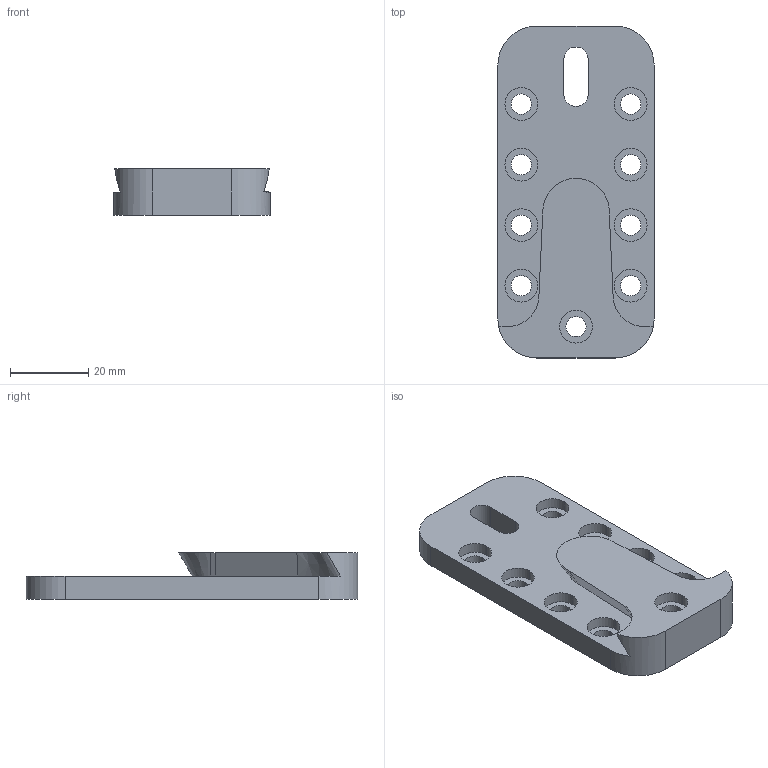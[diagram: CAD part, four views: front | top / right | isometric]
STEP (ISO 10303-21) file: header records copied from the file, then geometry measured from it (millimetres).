
FILE_DESCRIPTION (( 'STEP AP203' ), '1' );
FILE_NAME ('UV_30_HT_Holz.STEP', '2019-03-19T09:16:21', ( '' ), ( '' ), 'SwSTEP 2.0', 'SolidWorks 2013', '' );
FILE_SCHEMA (( 'CONFIG_CONTROL_DESIGN' ));
Length unit declared in the file: millimetre
Products named in the file (1): UV_30_HT_Holz
Bounding box: 40 x 85 x 12 mm (x, y, z)
Volume: 21949.7 mm3; surface area: 10213.4 mm2
Topology: 1 solids, 1 shells, 69 faces, 174 edges, 116 vertices
Faces by surface type: cylinder 42, plane 22, bspline 3, cone 2
Entity records: 2473 total; most frequent: CARTESIAN_POINT 635, DIRECTION 386, ORIENTED_EDGE 348, EDGE_CURVE 174, AXIS2_PLACEMENT_3D 157, VERTEX_POINT 116, EDGE_LOOP 98, CIRCLE 90
